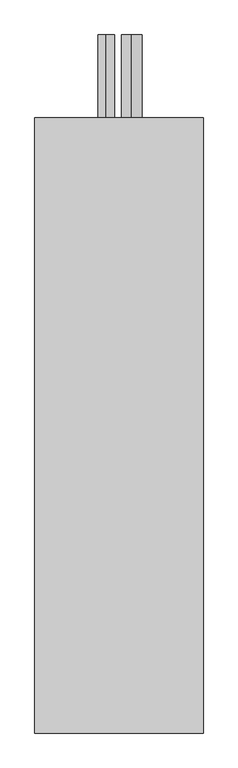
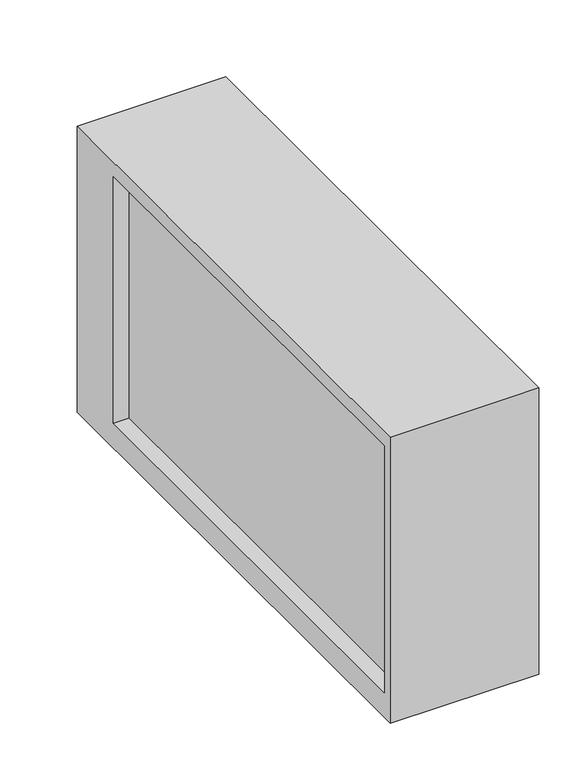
"""IFC4 building model written with IfcOpenShell, lengths in millimetres: proxy geometry, СВ_ВоздухоохладительФреоновый_КанальныйПрямоугольный_200-1000_SPC-F : SPC-F-900x500-L."""

from ifc_helpers import new_model, si_unit, point, frame, frame_2d, origin, place, context, project, spatial, polyline, circle_curve, trimmed, segment, composite_curve, outline, extrude, source, transform, mapped, element, save


def mechanical_equipment_7d7a51ef(model_context):
    return source(origin(), model_context, "Body", "SweptSolid", [
        extrude(outline(polyline([(-470.0, -300.0), (-470.0, 280.0), (570.0, 280.0), (570.0, -300.0), (-470.0, -300.0)]), holes=[polyline([(-450.0, 250.0), (-450.0, -250.0), (450.0, -250.0), (450.0, 250.0), (-450.0, 250.0)])]), frame((-142.5, 0.0, 0.0), z_axis=(1.0, 0.0, 0.0), x_axis=(0.0, 1.0, 0.0)), (0.0, 0.0, 1.0), 285.0),
        extrude(outline(composite_curve([segment(trimmed(circle_curve(frame_2d((-190.0, 21.5)), 17.45), [point((-207.45, 21.5))], [point((-172.55, 21.5))], False, "CARTESIAN"), True, "CONTINUOUS"), segment(trimmed(circle_curve(frame_2d((-190.0, 21.5)), 17.45), [point((-172.55, 21.5))], [point((-207.45, 21.5))], False, "CARTESIAN"), True, "CONTINUOUS")], self_intersect=False)), frame((0.0, 570.0, 0.0), z_axis=(0.0, 1.0, 0.0), x_axis=(0.0, 0.0, 1.0)), (0.0, 0.0, 1.0), 140.0),
        extrude(outline(composite_curve([segment(trimmed(circle_curve(frame_2d((130.0, -21.5)), 14.3), [point((115.7, -21.5))], [point((144.3, -21.5))], False, "CARTESIAN"), True, "CONTINUOUS"), segment(trimmed(circle_curve(frame_2d((130.0, -21.5)), 14.3), [point((144.3, -21.5))], [point((115.7, -21.5))], False, "CARTESIAN"), True, "CONTINUOUS")], self_intersect=False)), frame((0.0, 570.0, 0.0), z_axis=(0.0, 1.0, 0.0), x_axis=(0.0, 0.0, 1.0)), (0.0, 0.0, 1.0), 140.0),
        extrude(outline(composite_curve([segment(trimmed(circle_curve(frame_2d((0.0, 530.0)), 11.0), [point((-11.0, 530.0))], [point((11.0, 530.0))], False, "CARTESIAN"), True, "CONTINUOUS"), segment(trimmed(circle_curve(frame_2d((0.0, 530.0)), 11.0), [point((11.0, 530.0))], [point((-11.0, 530.0))], False, "CARTESIAN"), True, "CONTINUOUS")], self_intersect=False)), frame((0.0, 0.0, -320.0), z_axis=(0.0, 0.0, 1.0), x_axis=(1.0, 0.0, 0.0)), (0.0, 0.0, 1.0), 20.0),
        extrude(outline(polyline([(112.5, 450.0), (112.5, -450.0), (-112.5, -450.0), (-112.5, 450.0), (112.5, 450.0)])), frame((0.0, 0.0, -250.0), z_axis=(0.0, 0.0, 1.0), x_axis=(1.0, 0.0, 0.0)), (0.0, 0.0, 1.0), 500.0),
    ])


if __name__ == "__main__":
    model = new_model("IFC4")
    model_context = context("Model", 3, world=origin())
    ifc_project = project(units=[si_unit("LENGTHUNIT", "METRE", prefix="MILLI")], contexts=[model_context])
    site = spatial("IfcSite", under=ifc_project)
    building = spatial("IfcBuilding", under=site)
    placement = place(None, origin())
    mechanical_equipment_shape = mechanical_equipment_7d7a51ef(model_context)
    element("IfcBuildingElementProxy", 1, Name="СВ_ВоздухоохладительФреоновый_КанальныйПрямоугольный_200-1000_SPC-F : SPC-F-900x500-L", ObjectType="СВ_ВоздухоохладительФреоновый_КанальныйПрямоугольный_200-1000_SPC-F : SPC-F-900x500-L", at=placement, inside=building, context=model_context, shape_type="MappedRepresentation", body=[
        mapped(mechanical_equipment_shape, transform((0.0, 0.0, 0.0), x_axis=(1.0, 0.0, 0.0), y_axis=(0.0, 1.0, 0.0), z_axis=(0.0, 0.0, 1.0))),
    ])
    save(model, "model.ifc")
